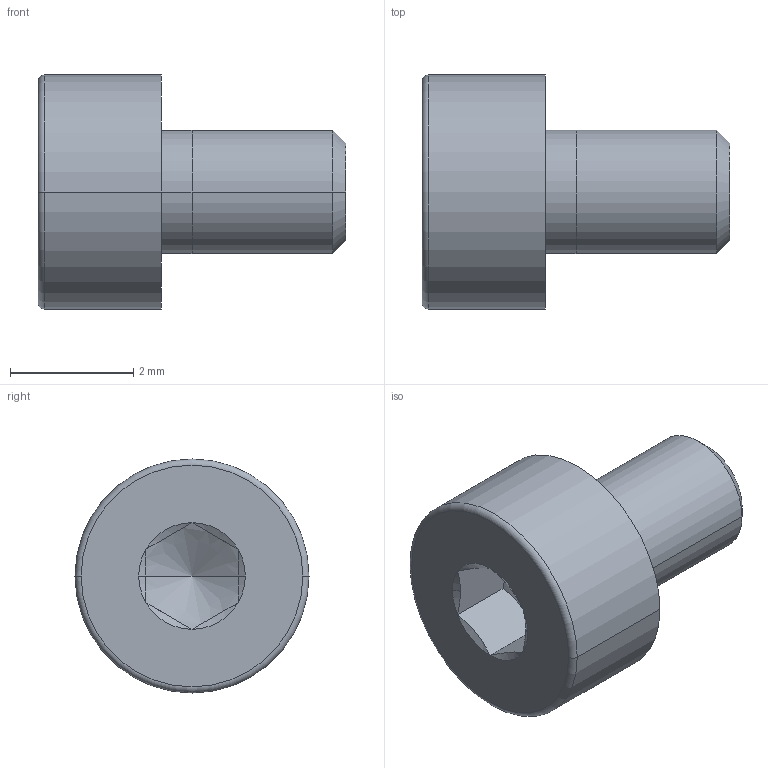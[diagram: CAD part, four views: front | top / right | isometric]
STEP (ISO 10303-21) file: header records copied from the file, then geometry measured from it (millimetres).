
FILE_DESCRIPTION(/* description */ ('VariCAD 2010-1.04 AP-203'),/* implementation_level */ '2;1');
FILE_NAME(/* name */ '0353-99-10',/* time_stamp */ '2010-01-13T18:13:44-07:00',/* author */ (''),/* organization */ (''),/* preprocessor_version */ 'ST-DEVELOPER v12',/* originating_system */ 'VariCAD 2010-1.04; kernel version (20090520)',/* authorisation */ '');
FILE_SCHEMA (('CONFIG_CONTROL_DESIGN'));
Length unit declared in the file: millimetre
Products named in the file (1): Part
Bounding box: 5 x 3.8 x 3.8 mm (x, y, z)
Volume: 29.6 mm3; surface area: 96.8 mm2
Topology: 2 solids, 2 shells, 35 faces, 72 edges, 41 vertices
Faces by surface type: cone 12, plane 11, cylinder 10, torus 2
Entity records: 1002 total; most frequent: CARTESIAN_POINT 229, DIRECTION 162, ORIENTED_EDGE 140, EDGE_CURVE 70, AXIS2_PLACEMENT_3D 70, VERTEX_POINT 41, EDGE_LOOP 39, ADVANCED_FACE 35
